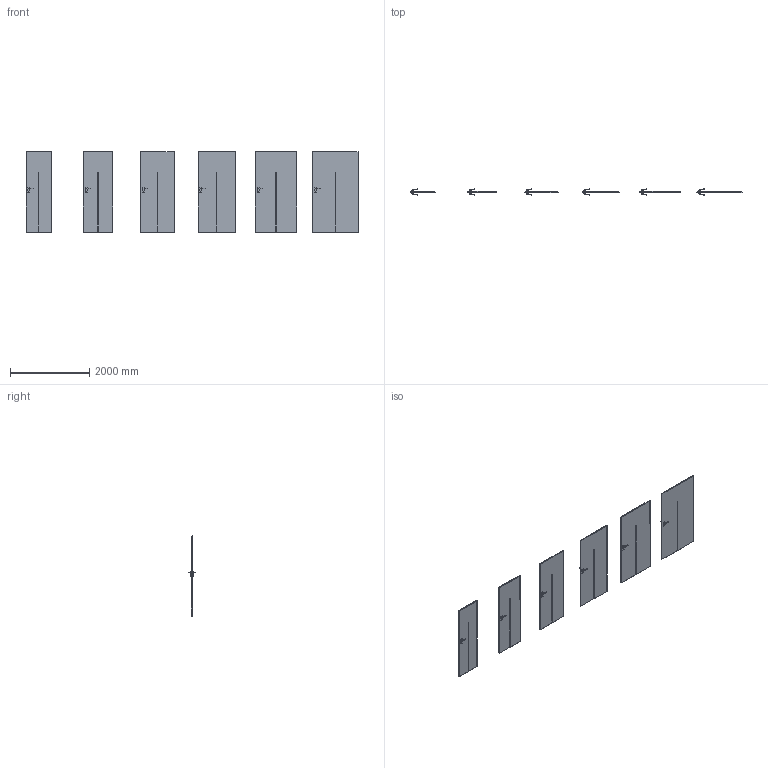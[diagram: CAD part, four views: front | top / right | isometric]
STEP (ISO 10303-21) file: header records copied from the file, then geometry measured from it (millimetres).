
FILE_DESCRIPTION(/* description */ (''),/* implementation_level */ '2;1');
FILE_NAME(/* name */ '049572_A_6-Skrzydło LINE model H.1_ polska norma _PN__ przylgowe..stp',/* time_stamp */ '2024-01-24T11:15:55+01:00',/* author */ (''),/* organization */ (''),/* preprocessor_version */ 'ST-DEVELOPER v16',/* originating_system */ 'SIEMENS PLM Software NX 11.0',/* authorisation */ '');
FILE_SCHEMA (('AUTOMOTIVE_DESIGN { 1 0 10303 214 3 1 1 1 }'));
Length unit declared in the file: millimetre
Products named in the file (1): bkni10AC1642r7bf
Bounding box: 8394 x 153.27 x 2030 mm (x, y, z)
Volume: 418559109.9 mm3; surface area: 23761086.6 mm2
Topology: 42 solids, 42 shells, 1200 faces, 2820 edges, 1584 vertices
Faces by surface type: plane 552, cylinder 288, bspline 192, sphere 168
Entity records: 39618 total; most frequent: CARTESIAN_POINT 13861, ORIENTED_EDGE 5304, DIRECTION 5078, EDGE_CURVE 2652, AXIS2_PLACEMENT_3D 1777, VERTEX_POINT 1584, LINE 1524, VECTOR 1524
